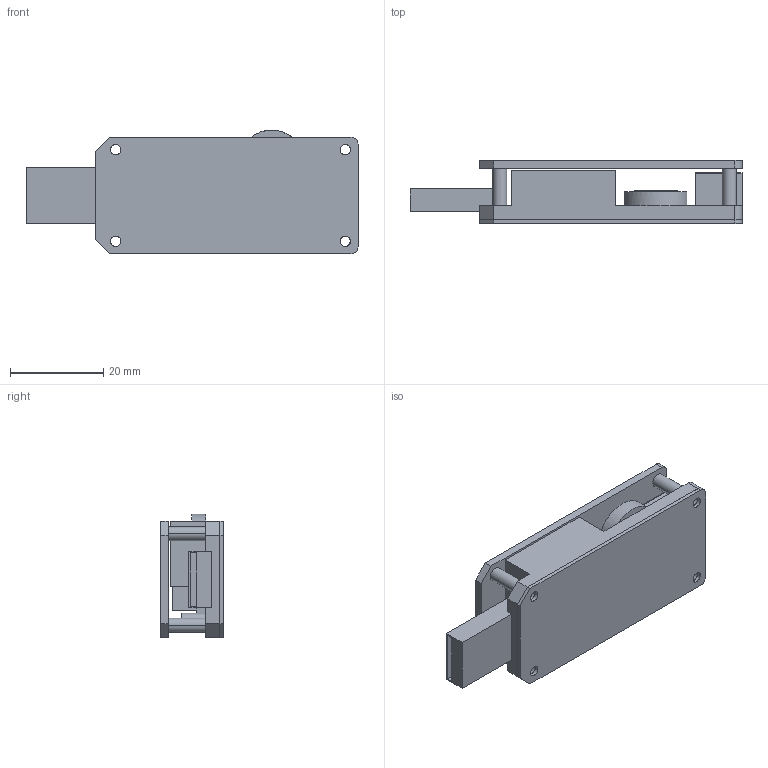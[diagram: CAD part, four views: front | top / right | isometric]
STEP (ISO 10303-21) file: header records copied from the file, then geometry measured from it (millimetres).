
FILE_DESCRIPTION((''),'2;1');
FILE_NAME('USB_SPEED_CONTROLLER','2024-03-09T14:40:19',('qinghui.yi'),(''),'CREO PARAMETRIC BY PTC INC, 2019164','CREO PARAMETRIC BY PTC INC, 2019164','');
FILE_SCHEMA(('CONFIG_CONTROL_DESIGN','SHAPE_APPEARANCE_LAYERS_GROUPS'));
Length unit declared in the file: millimetre
Products named in the file (1): USB_SPEED_CONTROLLER
Bounding box: 71.1 x 13.51 x 26.5 mm (x, y, z)
Volume: 11770.3 mm3; surface area: 12684.7 mm2
Topology: 2 solids, 2 shells, 128 faces, 346 edges, 242 vertices
Faces by surface type: plane 84, cylinder 44
Entity records: 4555 total; most frequent: DIRECTION 704, CARTESIAN_POINT 697, ORIENTED_EDGE 672, EDGE_CURVE 336, COLOUR_RGB 312, VECTOR 246, LINE 246, AXIS2_PLACEMENT_3D 229
